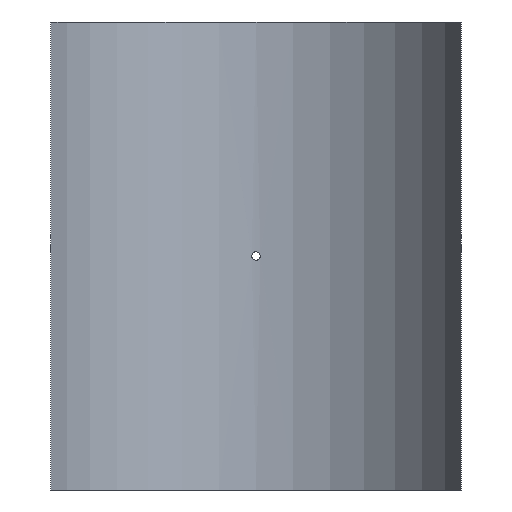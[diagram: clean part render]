
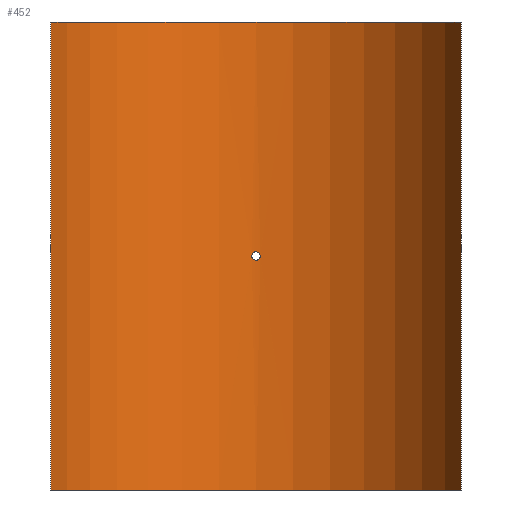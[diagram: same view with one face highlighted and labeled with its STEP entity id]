
A CAD part, front view. The second image highlights one B-rep face of the part: STEP entity #452.
In plain terms, the highlighted cylindrical face has radius 250 mm (diameter 500 mm), a partial arc.
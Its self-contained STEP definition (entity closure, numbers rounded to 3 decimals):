
#19=B_SPLINE_CURVE_WITH_KNOTS('',3,(#788,#789,#790,#791,#792,#793,#794,
#795,#796,#797,#798,#799,#800,#801,#802,#803,#804,#805,#806,#807,#808,#809,
#810,#811,#812,#813,#814,#815,#816,#817,#818,#819,#820,#821),
 .UNSPECIFIED.,.T.,.F.,(4,2,2,2,2,2,2,2,2,2,2,2,2,2,2,2,4),(0.,0.181,
0.362,0.542,0.723,0.904,
1.085,1.266,1.447,1.627,1.808,
1.989,2.17,2.351,2.531,2.712,
2.893),.UNSPECIFIED.);
#43=LINE('',#1073,#62);
#44=LINE('',#1076,#63);
#62=VECTOR('',#661,10.);
#63=VECTOR('',#664,10.);
#76=CYLINDRICAL_SURFACE('',#530,250.);
#88=FACE_BOUND('',#167,.T.);
#127=FACE_OUTER_BOUND('',#166,.T.);
#166=EDGE_LOOP('',(#405,#406,#407,#408));
#167=EDGE_LOOP('',(#409));
#201=CIRCLE('',#529,250.);
#202=CIRCLE('',#531,250.);
#219=VERTEX_POINT('',#786);
#242=VERTEX_POINT('',#1066);
#243=VERTEX_POINT('',#1068);
#244=VERTEX_POINT('',#1072);
#245=VERTEX_POINT('',#1074);
#267=EDGE_CURVE('',#219,#219,#19,.T.);
#299=EDGE_CURVE('',#242,#243,#201,.T.);
#301=EDGE_CURVE('',#244,#242,#43,.T.);
#302=EDGE_CURVE('',#245,#244,#202,.T.);
#303=EDGE_CURVE('',#245,#243,#44,.T.);
#405=ORIENTED_EDGE('',*,*,#301,.F.);
#406=ORIENTED_EDGE('',*,*,#302,.F.);
#407=ORIENTED_EDGE('',*,*,#303,.T.);
#408=ORIENTED_EDGE('',*,*,#299,.F.);
#409=ORIENTED_EDGE('',*,*,#267,.T.);
#452=ADVANCED_FACE('',(#127,#88),#76,.F.);
#529=AXIS2_PLACEMENT_3D('',#1069,#656,#657);
#530=AXIS2_PLACEMENT_3D('',#1071,#659,#660);
#531=AXIS2_PLACEMENT_3D('',#1075,#662,#663);
#656=DIRECTION('center_axis',(0.,0.,1.));
#657=DIRECTION('ref_axis',(0.93,0.368,0.));
#659=DIRECTION('center_axis',(0.,0.,1.));
#660=DIRECTION('ref_axis',(0.93,0.368,0.));
#661=DIRECTION('',(0.,0.,-1.));
#662=DIRECTION('center_axis',(0.,0.,-1.));
#663=DIRECTION('ref_axis',(0.93,0.368,0.));
#664=DIRECTION('',(0.,0.,-1.));
#786=CARTESIAN_POINT('',(4.8,249.954,0.));
#788=CARTESIAN_POINT('Ctrl Pts',(4.8,249.954,0.));
#789=CARTESIAN_POINT('Ctrl Pts',(4.8,249.954,-0.603));
#790=CARTESIAN_POINT('Ctrl Pts',(4.68,249.956,-1.246));
#791=CARTESIAN_POINT('Ctrl Pts',(4.19,249.965,-2.428));
#792=CARTESIAN_POINT('Ctrl Pts',(3.82,249.971,-2.968));
#793=CARTESIAN_POINT('Ctrl Pts',(2.968,249.983,-3.82));
#794=CARTESIAN_POINT('Ctrl Pts',(2.428,249.989,-4.19));
#795=CARTESIAN_POINT('Ctrl Pts',(1.246,249.998,-4.68));
#796=CARTESIAN_POINT('Ctrl Pts',(0.603,250.,-4.8));
#797=CARTESIAN_POINT('Ctrl Pts',(-0.603,250.,-4.8));
#798=CARTESIAN_POINT('Ctrl Pts',(-1.246,249.998,-4.68));
#799=CARTESIAN_POINT('Ctrl Pts',(-2.428,249.989,-4.19));
#800=CARTESIAN_POINT('Ctrl Pts',(-2.968,249.983,-3.82));
#801=CARTESIAN_POINT('Ctrl Pts',(-3.82,249.971,-2.968));
#802=CARTESIAN_POINT('Ctrl Pts',(-4.19,249.965,-2.428));
#803=CARTESIAN_POINT('Ctrl Pts',(-4.68,249.956,-1.246));
#804=CARTESIAN_POINT('Ctrl Pts',(-4.8,249.954,-0.603));
#805=CARTESIAN_POINT('Ctrl Pts',(-4.8,249.954,0.603));
#806=CARTESIAN_POINT('Ctrl Pts',(-4.68,249.956,1.246));
#807=CARTESIAN_POINT('Ctrl Pts',(-4.19,249.965,2.428));
#808=CARTESIAN_POINT('Ctrl Pts',(-3.82,249.971,2.968));
#809=CARTESIAN_POINT('Ctrl Pts',(-2.968,249.983,3.82));
#810=CARTESIAN_POINT('Ctrl Pts',(-2.428,249.989,4.19));
#811=CARTESIAN_POINT('Ctrl Pts',(-1.246,249.998,4.68));
#812=CARTESIAN_POINT('Ctrl Pts',(-0.603,250.,4.8));
#813=CARTESIAN_POINT('Ctrl Pts',(0.603,250.,4.8));
#814=CARTESIAN_POINT('Ctrl Pts',(1.246,249.998,4.68));
#815=CARTESIAN_POINT('Ctrl Pts',(2.428,249.989,4.19));
#816=CARTESIAN_POINT('Ctrl Pts',(2.968,249.983,3.82));
#817=CARTESIAN_POINT('Ctrl Pts',(3.82,249.971,2.968));
#818=CARTESIAN_POINT('Ctrl Pts',(4.19,249.965,2.428));
#819=CARTESIAN_POINT('Ctrl Pts',(4.68,249.956,1.246));
#820=CARTESIAN_POINT('Ctrl Pts',(4.8,249.954,0.603));
#821=CARTESIAN_POINT('Ctrl Pts',(4.8,249.954,0.));
#1066=CARTESIAN_POINT('',(232.5,91.89,-265.));
#1068=CARTESIAN_POINT('',(-232.5,91.89,-265.));
#1069=CARTESIAN_POINT('Origin',(0.,0.,
-265.));
#1071=CARTESIAN_POINT('Origin',(0.,0.,
0.));
#1072=CARTESIAN_POINT('',(232.5,91.89,265.));
#1073=CARTESIAN_POINT('',(232.5,91.89,0.));
#1074=CARTESIAN_POINT('',(-232.5,91.89,265.));
#1075=CARTESIAN_POINT('Origin',(0.,0.,
265.));
#1076=CARTESIAN_POINT('',(-232.5,91.89,0.));
